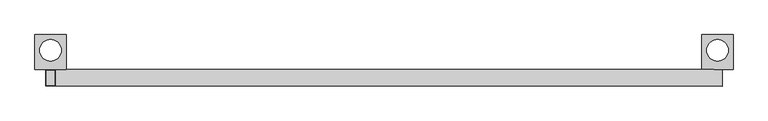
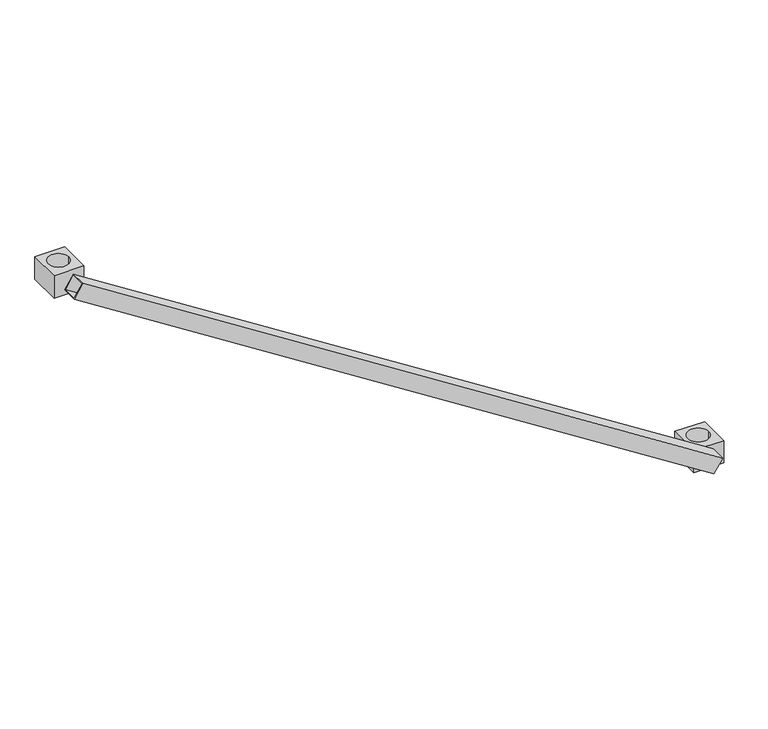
"""IFC4 building model written with IfcOpenShell, lengths in millimetres: proxy geometry, AK_アルバトロスAK伸縮斜材 : H1350×L1500."""

from ifc_helpers import new_model, si_unit, point, frame, frame_2d, origin, place, context, project, spatial, polyline, circle_curve, trimmed, segment, composite_curve, outline, extrude, source, transform, mapped, element, save


def generic_models_ed6e2dec(model_context):
    return source(origin(), model_context, "Body", "SweptSolid", [
        extrude(outline(polyline([(0.0, 0.0), (0.0, -38.0), (-38.0000001, -38.0), (-38.0000001, 0.0), (0.0, 0.0)]), holes=[polyline([(-2.0, -2.0), (-36.0000001, -2.0), (-36.0000001, -36.0), (-2.0, -36.0), (-2.0, -2.0)])]), frame((10.2293853, 19.0, 16.011236), z_axis=(-0.8426966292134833, 0.0, 0.5383886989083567), x_axis=(0.5383886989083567, 0.0, 0.8426966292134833)), (0.0, 0.0, 1.0), 1780.0),
        extrude(outline(polyline([(35.0, 96.8842695), (35.0, 19.0), (-35.0, 19.0), (-35.0, 96.8842695), (35.0, 96.8842695)]), holes=[composite_curve([segment(trimmed(circle_curve(frame_2d((0.0, 61.8842695)), 24.3), [point((24.3, 61.8842695))], [point((-24.3, 61.8842695))], True, "CARTESIAN"), True, "CONTINUOUS"), segment(trimmed(circle_curve(frame_2d((0.0, 61.8842695)), 24.3), [point((-24.3, 61.8842695))], [point((24.3, 61.8842695))], True, "CARTESIAN"), True, "CONTINUOUS")], self_intersect=False)]), frame((0.0, 0.0, -27.7559086), z_axis=(0.0, 0.0, 1.0), x_axis=(1.0, 0.0, 0.0)), (0.0, 0.0, 1.0), 55.5118171),
        extrude(outline(polyline([(-1465.0, 19.0), (-1535.0, 19.0), (-1535.0, 96.8842695), (-1465.0, 96.8842695), (-1465.0, 19.0)]), holes=[composite_curve([segment(trimmed(circle_curve(frame_2d((-1500.0, 61.8842695)), 24.3), [point((-1475.7, 61.8842695))], [point((-1524.3, 61.8842695))], True, "CARTESIAN"), True, "CONTINUOUS"), segment(trimmed(circle_curve(frame_2d((-1500.0, 61.8842695)), 24.3), [point((-1524.3, 61.8842695))], [point((-1475.7, 61.8842695))], True, "CARTESIAN"), True, "CONTINUOUS")], self_intersect=False)]), frame((0.0, 0.0, 930.5759755), z_axis=(0.0, 0.0, 1.0), x_axis=(1.0, 0.0, 0.0)), (0.0, 0.0, 1.0), 55.5118171),
    ])


if __name__ == "__main__":
    model = new_model("IFC4")
    model_context = context("Model", 3, world=origin())
    ifc_project = project(units=[si_unit("LENGTHUNIT", "METRE", prefix="MILLI")], contexts=[model_context])
    site = spatial("IfcSite", under=ifc_project)
    building = spatial("IfcBuilding", under=site)
    placement = place(None, origin())
    generic_models_shape = generic_models_ed6e2dec(model_context)
    element("IfcBuildingElementProxy", 1, Name="AK_アルバトロスAK伸縮斜材 : H1350×L1500", ObjectType="AK_アルバトロスAK伸縮斜材 : H1350×L1500", at=placement, inside=building, context=model_context, shape_type="MappedRepresentation", body=[
        mapped(generic_models_shape, transform((0.0, 0.0, 0.0), x_axis=(1.0, 0.0, 0.0), y_axis=(0.0, 1.0, 0.0), z_axis=(0.0, 0.0, 1.0))),
    ])
    save(model, "model.ifc")
